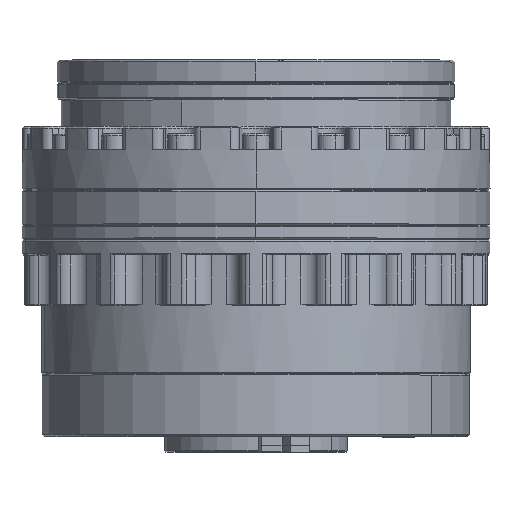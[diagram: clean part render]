
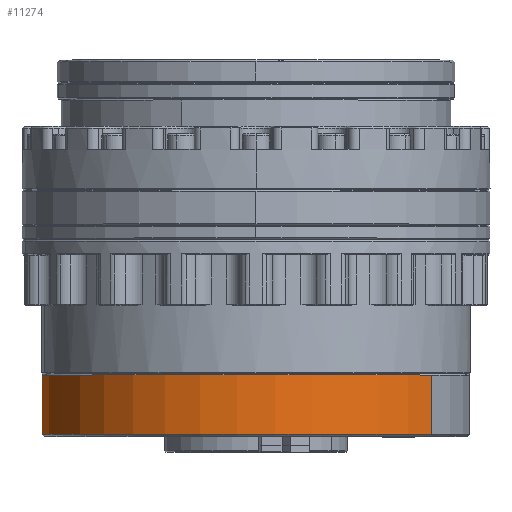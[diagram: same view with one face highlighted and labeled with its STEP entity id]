
A CAD part, top view. The second image highlights one B-rep face of the part: STEP entity #11274.
In plain terms, the highlighted cylindrical face has radius 55 mm (diameter 110 mm), a partial arc.
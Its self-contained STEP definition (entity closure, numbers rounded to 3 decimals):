
#629 = CARTESIAN_POINT ( 'NONE',  ( 18.244, -88.272, -3.281 ) ) ;
#771 = DIRECTION ( 'NONE',  ( 0., 1., 0. ) ) ;
#1617 = CIRCLE ( 'NONE', #17570, 55. ) ;
#2398 = ORIENTED_EDGE ( 'NONE', *, *, #17650, .T. ) ;
#2709 = VERTEX_POINT ( 'NONE', #40933 ) ;
#4570 = DIRECTION ( 'NONE',  ( -0.819, 0., -0.574 ) ) ;
#7241 = EDGE_CURVE ( 'NONE', #51562, #2709, #45037, .T. ) ;
#9191 = LINE ( 'NONE', #13123, #36334 ) ;
#9831 = CARTESIAN_POINT ( 'NONE',  ( 63.298, -88.272, 28.266 ) ) ;
#10092 = AXIS2_PLACEMENT_3D ( 'NONE', #629, #29275, #4570 ) ;
#11274 = ADVANCED_FACE ( 'NONE', ( #21375 ), #33484, .T. ) ;
#13123 = CARTESIAN_POINT ( 'NONE',  ( -26.809, -88.272, -34.827 ) ) ;
#14454 = VECTOR ( 'NONE', #21905, 1000. ) ;
#14506 = DIRECTION ( 'NONE',  ( 0.819, 0., 0.574 ) ) ;
#16658 = DIRECTION ( 'NONE',  ( 0., -1., 0. ) ) ;
#17570 = AXIS2_PLACEMENT_3D ( 'NONE', #48516, #16658, #33210 ) ;
#17650 = EDGE_CURVE ( 'NONE', #2709, #48297, #18221, .T. ) ;
#18221 = LINE ( 'NONE', #9831, #14454 ) ;
#18807 = ORIENTED_EDGE ( 'NONE', *, *, #22130, .T. ) ;
#18999 = CARTESIAN_POINT ( 'NONE',  ( -26.809, -87.772, -34.827 ) ) ;
#21375 = FACE_OUTER_BOUND ( 'NONE', #30595, .T. ) ;
#21905 = DIRECTION ( 'NONE',  ( 0., 1., 0. ) ) ;
#22130 = EDGE_CURVE ( 'NONE', #48297, #34705, #1617, .T. ) ;
#22437 = CARTESIAN_POINT ( 'NONE',  ( -26.809, -72.572, -34.827 ) ) ;
#26862 = DIRECTION ( 'NONE',  ( 0., 1., 0. ) ) ;
#28285 = AXIS2_PLACEMENT_3D ( 'NONE', #34778, #26862, #14506 ) ;
#29275 = DIRECTION ( 'NONE',  ( 0., 1., 0. ) ) ;
#29691 = CARTESIAN_POINT ( 'NONE',  ( 63.298, -72.572, 28.266 ) ) ;
#30595 = EDGE_LOOP ( 'NONE', ( #38447, #2398, #18807, #48788 ) ) ;
#33210 = DIRECTION ( 'NONE',  ( -0.819, 0., -0.574 ) ) ;
#33484 = CYLINDRICAL_SURFACE ( 'NONE', #10092, 55. ) ;
#34705 = VERTEX_POINT ( 'NONE', #22437 ) ;
#34778 = CARTESIAN_POINT ( 'NONE',  ( 18.244, -87.772, -3.281 ) ) ;
#36334 = VECTOR ( 'NONE', #771, 1000. ) ;
#38447 = ORIENTED_EDGE ( 'NONE', *, *, #7241, .T. ) ;
#40933 = CARTESIAN_POINT ( 'NONE',  ( 63.298, -87.772, 28.266 ) ) ;
#45037 = CIRCLE ( 'NONE', #28285, 55. ) ;
#48297 = VERTEX_POINT ( 'NONE', #29691 ) ;
#48516 = CARTESIAN_POINT ( 'NONE',  ( 18.244, -72.572, -3.281 ) ) ;
#48788 = ORIENTED_EDGE ( 'NONE', *, *, #51590, .F. ) ;
#51562 = VERTEX_POINT ( 'NONE', #18999 ) ;
#51590 = EDGE_CURVE ( 'NONE', #51562, #34705, #9191, .T. ) ;
